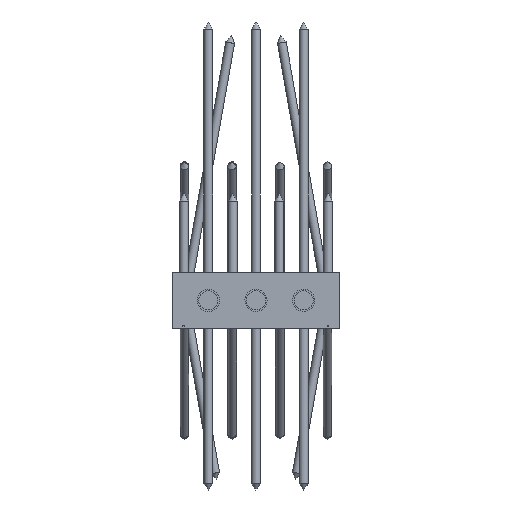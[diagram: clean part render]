
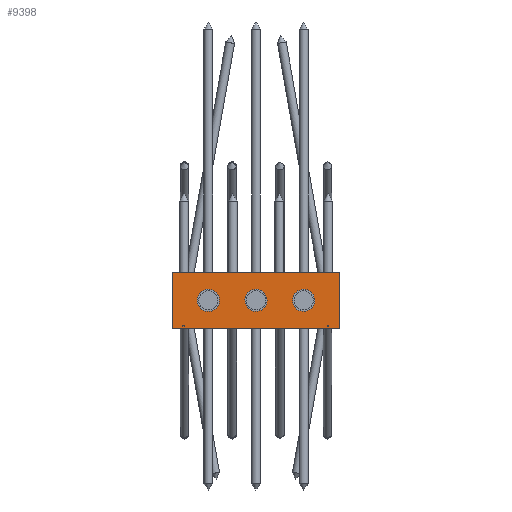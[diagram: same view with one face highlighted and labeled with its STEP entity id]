
A CAD part, front view. The second image highlights one B-rep face of the part: STEP entity #9398.
In plain terms, the highlighted planar face has unit normal (0, -1, 0) as drawn and (0, 0, 1) by its records, which use the part's own axes.
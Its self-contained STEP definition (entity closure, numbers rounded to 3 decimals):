
#934=LINE('',#18811,#1386);
#942=LINE('',#18835,#1394);
#943=LINE('',#18843,#1395);
#944=LINE('',#18844,#1396);
#1386=VECTOR('',#12629,1000.);
#1394=VECTOR('',#12649,1000.);
#1395=VECTOR('',#12658,1000.);
#1396=VECTOR('',#12659,1000.);
#4320=ORIENTED_EDGE('',*,*,#5602,.F.);
#4321=ORIENTED_EDGE('',*,*,#5603,.F.);
#4322=ORIENTED_EDGE('',*,*,#5604,.F.);
#4323=ORIENTED_EDGE('',*,*,#5605,.F.);
#4324=ORIENTED_EDGE('',*,*,#5601,.F.);
#4325=ORIENTED_EDGE('',*,*,#5606,.T.);
#4326=ORIENTED_EDGE('',*,*,#5589,.T.);
#5589=EDGE_CURVE('',#6486,#6484,#934,.T.);
#5601=EDGE_CURVE('',#6495,#6494,#942,.T.);
#5602=EDGE_CURVE('',#6496,#6496,#6735,.T.);
#5603=EDGE_CURVE('',#6497,#6497,#6736,.T.);
#5604=EDGE_CURVE('',#6498,#6498,#6737,.T.);
#5605=EDGE_CURVE('',#6494,#6484,#943,.T.);
#5606=EDGE_CURVE('',#6495,#6486,#944,.T.);
#6484=VERTEX_POINT('',#18809);
#6486=VERTEX_POINT('',#18812);
#6494=VERTEX_POINT('',#18832);
#6495=VERTEX_POINT('',#18834);
#6496=VERTEX_POINT('',#18838);
#6497=VERTEX_POINT('',#18840);
#6498=VERTEX_POINT('',#18842);
#6735=CIRCLE('',#10575,8.647);
#6736=CIRCLE('',#10576,8.647);
#6737=CIRCLE('',#10577,8.647);
#7577=EDGE_LOOP('',(#4320));
#7578=EDGE_LOOP('',(#4321));
#7579=EDGE_LOOP('',(#4322));
#7580=EDGE_LOOP('',(#4323,#4324,#4325,#4326));
#8477=FACE_BOUND('',#7577,.T.);
#8478=FACE_BOUND('',#7578,.T.);
#8479=FACE_BOUND('',#7579,.T.);
#8480=FACE_BOUND('',#7580,.T.);
#8861=PLANE('',#10574);
#9398=ADVANCED_FACE('',(#8477,#8478,#8479,#8480),#8861,.T.);
#10574=AXIS2_PLACEMENT_3D('',#18836,#12650,#12651);
#10575=AXIS2_PLACEMENT_3D('',#18837,#12652,#12653);
#10576=AXIS2_PLACEMENT_3D('',#18839,#12654,#12655);
#10577=AXIS2_PLACEMENT_3D('',#18841,#12656,#12657);
#12629=DIRECTION('',(0.,-1.,0.));
#12649=DIRECTION('',(0.,-1.,0.));
#12650=DIRECTION('',(0.,0.,1.));
#12651=DIRECTION('',(1.,0.,0.));
#12652=DIRECTION('',(0.,0.,1.));
#12653=DIRECTION('',(1.,0.,0.));
#12654=DIRECTION('',(0.,0.,1.));
#12655=DIRECTION('',(1.,0.,0.));
#12656=DIRECTION('',(0.,0.,1.));
#12657=DIRECTION('',(1.,0.,0.));
#12658=DIRECTION('',(-1.,0.,0.));
#12659=DIRECTION('',(-1.,0.,0.));
#18809=CARTESIAN_POINT('',(0.,0.,50.));
#18811=CARTESIAN_POINT('',(0.,150.,50.));
#18812=CARTESIAN_POINT('',(0.,150.,50.));
#18832=CARTESIAN_POINT('',(50.,0.,50.));
#18834=CARTESIAN_POINT('',(50.,150.,50.));
#18835=CARTESIAN_POINT('',(50.,150.,50.));
#18836=CARTESIAN_POINT('',(50.,150.,50.));
#18837=CARTESIAN_POINT('',(25.,32.,50.));
#18838=CARTESIAN_POINT('',(33.647,32.,50.));
#18839=CARTESIAN_POINT('',(25.,75.,50.));
#18840=CARTESIAN_POINT('',(33.647,75.,50.));
#18841=CARTESIAN_POINT('',(25.,118.,50.));
#18842=CARTESIAN_POINT('',(33.647,118.,50.));
#18843=CARTESIAN_POINT('',(50.,0.,50.));
#18844=CARTESIAN_POINT('',(50.,150.,50.));
